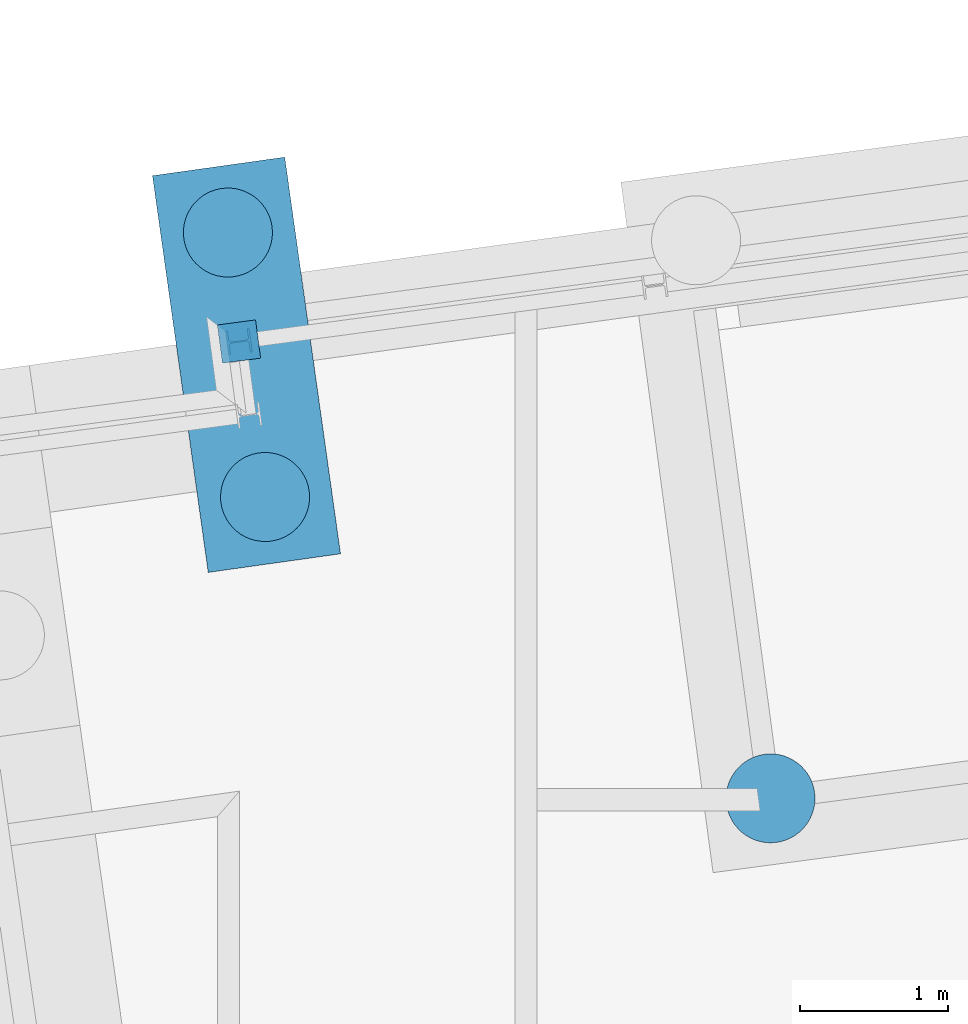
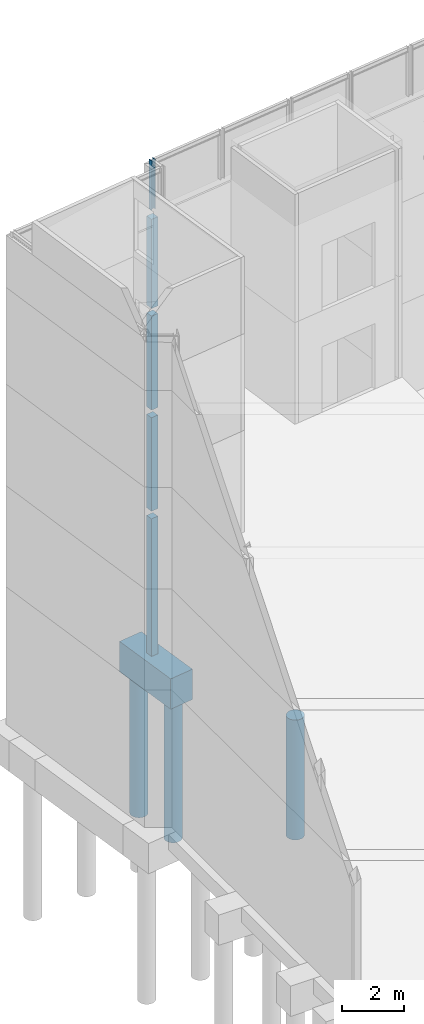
# One storey, part 21 of 82: 9 columns.
"""IFC2X3 building model written with IfcOpenShell, lengths in millimetres."""

from ifc_helpers import new_model, si_unit, frame, frame_2d, origin_with_axes, place, context, subcontext, project, spatial, rectangle, circle, i_section, extrude, material, type_object, element, save


model = new_model("IFC2X3")

# Units and contexts
model_context = context("Model", 3, precision=1e-05, world=origin_with_axes())
body_context = subcontext(model_context, "Body", "Model", "MODEL_VIEW")
ifc_project = project(units=[si_unit("LENGTHUNIT", "METRE", prefix="MILLI"), si_unit("AREAUNIT", "SQUARE_METRE"), si_unit("VOLUMEUNIT", "CUBIC_METRE"), si_unit("MASSUNIT", "GRAM", prefix="KILO"), si_unit("TIMEUNIT", "SECOND"), si_unit("PLANEANGLEUNIT", "RADIAN"), si_unit("SOLIDANGLEUNIT", "STERADIAN"), si_unit("THERMODYNAMICTEMPERATUREUNIT", "DEGREE_CELSIUS"), si_unit("LUMINOUSINTENSITYUNIT", "LUMEN")], contexts=[model_context])

# Site, building, storey
site_placement = place(None, origin_with_axes())
site = spatial("IfcSite", under=ifc_project, at=site_placement, Name="Undefined", CompositionType="ELEMENT")
building_placement = place(site_placement, origin_with_axes())
building = spatial("IfcBuilding", under=site, at=building_placement, Name="Undefined", CompositionType="ELEMENT")
storey_placement = place(building_placement, origin_with_axes())
storey = spatial("IfcBuildingStorey", under=building, at=storey_placement, Name="Undefined", CompositionType="ELEMENT", Elevation=0.0)

# Columns
ifc_material_1 = material(Name="CONCRETE/C25/30")
column_type_1 = type_object("IfcColumnType", Name="260*260", PredefinedType="NOTDEFINED")
column_1_placement = place(storey_placement, frame((4187.28151147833, 27405.4344645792, 13329.9999999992), z_axis=(0.0, 0.0, 1.0), x_axis=(1.0, 0.0, 0.0)))
element("IfcColumn", 1, at=column_1_placement, inside=storey, type_object=column_type_1, material=ifc_material_1, Name="POTEAU", ObjectType="260*260", context=body_context, shape_type="SweptSolid", body=[
    extrude(rectangle(XDim=260.0, YDim=260.0, at=frame_2d((5.17284206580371e-08, 4.49290382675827e-10), x_axis=(1.0, 0.0))), frame((0.0, 0.0, 3529.99999999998), z_axis=(0.0, -6.50000002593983e-08, -0.999999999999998), x_axis=(-0.131264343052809, 0.991347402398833, 0.0)), (0.0, 0.0, 1.0), 3530.0),
])
column_2_placement = place(storey_placement, frame((4187.28151147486, 27405.4344645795, 9304.99999999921), z_axis=(0.0, 0.0, 1.0), x_axis=(1.0, 0.0, 0.0)))
element("IfcColumn", 2, at=column_2_placement, inside=storey, type_object=column_type_1, material=ifc_material_1, Name="POTEAU", ObjectType="260*260", context=body_context, shape_type="SweptSolid", body=[
    extrude(rectangle(XDim=260.0, YDim=260.0, at=frame_2d((5.17284206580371e-08, 4.49290382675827e-10), x_axis=(1.0, 0.0))), frame((0.0, 0.0, 3725.0), z_axis=(0.0, -6.50000002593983e-08, -0.999999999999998), x_axis=(-0.131264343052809, 0.991347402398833, 0.0)), (0.0, 0.0, 1.0), 3725.0),
])
column_3_placement = place(storey_placement, frame((4187.28151147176, 27405.434464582, 5299.99999999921), z_axis=(0.0, 0.0, 1.0), x_axis=(1.0, 0.0, 0.0)))
element("IfcColumn", 3, at=column_3_placement, inside=storey, type_object=column_type_1, material=ifc_material_1, Name="POTEAU", ObjectType="260*260", context=body_context, shape_type="SweptSolid", body=[
    extrude(rectangle(XDim=260.0, YDim=260.0, at=frame_2d((5.17284206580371e-08, 4.49290382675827e-10), x_axis=(1.0, 0.0))), frame((0.0, 0.0, 3705.00000000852), z_axis=(0.0, -6.50000002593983e-08, -0.999999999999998), x_axis=(-0.131264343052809, 0.991347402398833, 0.0)), (0.0, 0.0, 1.0), 3705.0),
])
column_4_placement = place(storey_placement, frame((4187.28151146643, 27405.4344645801, -449.999511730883), z_axis=(0.0, 0.0, 1.0), x_axis=(1.0, 0.0, 0.0)))
element("IfcColumn", 4, at=column_4_placement, inside=storey, type_object=column_type_1, material=ifc_material_1, Name="POTEAU", ObjectType="260*260", context=body_context, shape_type="SweptSolid", body=[
    extrude(rectangle(XDim=260.0, YDim=260.0, at=frame_2d((5.17284206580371e-08, 4.49290382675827e-10), x_axis=(1.0, 0.0))), frame((0.0, 0.0, 5449.9995117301), z_axis=(0.0, -6.50000002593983e-08, -0.999999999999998), x_axis=(-0.131264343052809, 0.991347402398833, 0.0)), (0.0, 0.0, 1.0), 5450.0),
])
ifc_material_2 = material(Name="STEEL/S275JR")
column_type_2 = type_object("IfcColumnType", Name="HEB160", PredefinedType="NOTDEFINED")
column_5_placement = place(storey_placement, frame((4187.29963108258, 27405.3012476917, 17160.0), z_axis=(0.0, 0.0, 1.0), x_axis=(1.0, 0.0, 0.0)))
element("IfcColumn", 5, at=column_5_placement, inside=storey, type_object=column_type_2, material=ifc_material_2, Name="POTEAU", ObjectType="HEB160", context=body_context, shape_type="SweptSolid", body=[
    extrude(i_section(OverallWidth=160.0, OverallDepth=160.0, WebThickness=8.0, FlangeThickness=13.0, FilletRadius=15.0, at=frame_2d((5.17284206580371e-08, 4.49290382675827e-10), x_axis=(1.0, 0.0))), frame((0.0, 0.0, 1965.0), z_axis=(0.0, -6.50000002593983e-08, -0.999999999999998), x_axis=(0.132256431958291, -0.991215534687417, 0.0)), (0.0, 0.0, 1.0), 1965.0),
])
ifc_material_3 = material(Name="CONCRETE/C30/37")
column_type_3 = type_object("IfcColumnType", Name="2700*900", PredefinedType="NOTDEFINED")
column_6_placement = place(storey_placement, frame((4238.04782704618, 27248.9915538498, -1650.0), z_axis=(0.0, 0.0, 1.0), x_axis=(1.0, 0.0, 0.0)))
element("IfcColumn", 6, at=column_6_placement, inside=storey, type_object=column_type_3, material=ifc_material_3, Name="SEMELLE", ObjectType="2700*900", context=body_context, shape_type="SweptSolid", body=[
    extrude(rectangle(XDim=900.0, YDim=2700.0, at=frame_2d((5.17284206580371e-08, 4.49290382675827e-10), x_axis=(1.0, 0.0))), frame((0.0, 0.0, 1200.0), z_axis=(0.0, -6.50000002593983e-08, -0.999999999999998), x_axis=(-0.990268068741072, -0.13917310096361, 0.0)), (0.0, 0.0, 1.0), 1200.0),
])
column_type_4 = type_object("IfcColumnType", Name="D600", PredefinedType="NOTDEFINED")
column_7_placement = place(storey_placement, frame((7770.2191306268, 24326.5168306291, -7025.0), z_axis=(0.0, 0.0, 1.0), x_axis=(1.0, 0.0, 0.0)))
element("IfcColumn", 7, at=column_7_placement, inside=storey, type_object=column_type_4, material=ifc_material_1, Name="PIEU", ObjectType="D600", context=body_context, shape_type="SweptSolid", body=[
    extrude(circle(Radius=300.0, at=frame_2d((5.17284206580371e-08, 4.49290382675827e-10), x_axis=(1.0, 0.0))), frame((0.0, 0.0, 4750.0), z_axis=(0.0, -6.50000002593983e-08, -0.999999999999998), x_axis=(0.99120961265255, 0.132300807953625, 0.0)), (0.0, 0.0, 1.0), 4750.0),
])
for number, where, z_axis, x_axis in (
    (8, (4112.79200898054, 28140.2328118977, -7175.0), (0.0, 0.0, 1.0), (1.0, 0.0, 0.0)),
    (9, (4363.30359071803, 26357.7502881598, -7175.0), (0.0, 0.0, 1.0), (1.0, 0.0, 0.0)),
):
    element("IfcColumn", number, at=place(storey_placement, frame(where, z_axis=z_axis, x_axis=x_axis)), inside=storey, type_object=column_type_4, material=ifc_material_1, Name="PIEU", ObjectType="D600", context=body_context, shape_type="SweptSolid", body=[
        extrude(circle(Radius=300.0, at=frame_2d((5.17284206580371e-08, 4.49290382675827e-10), x_axis=(1.0, 0.0))), frame((0.0, 0.0, 5750.0), z_axis=(0.0, -6.50000002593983e-08, -0.999999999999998), x_axis=(0.991215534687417, 0.132256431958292, 0.0)), (0.0, 0.0, 1.0), 5750.0),
    ])

save(model, "model.ifc")
